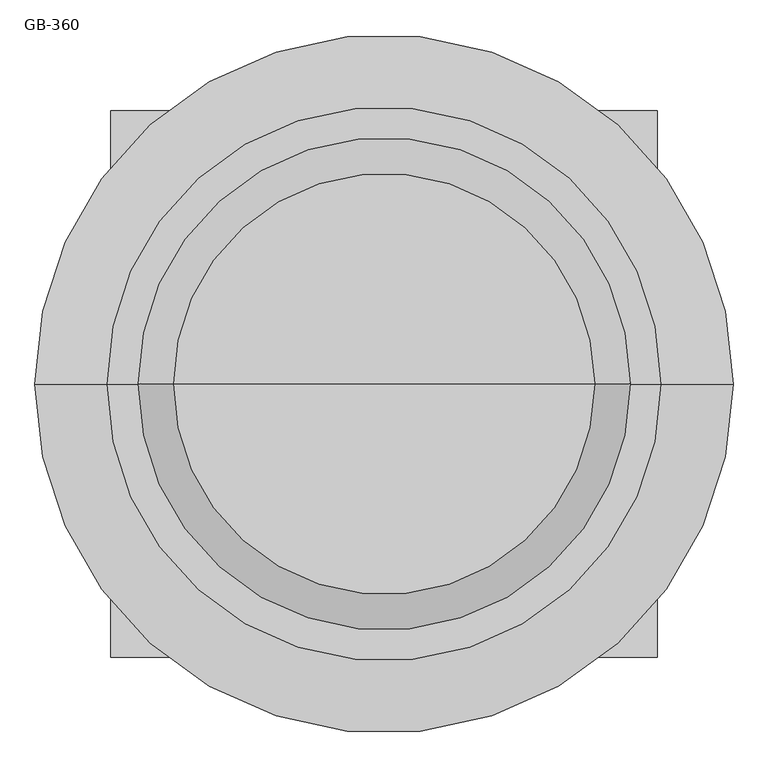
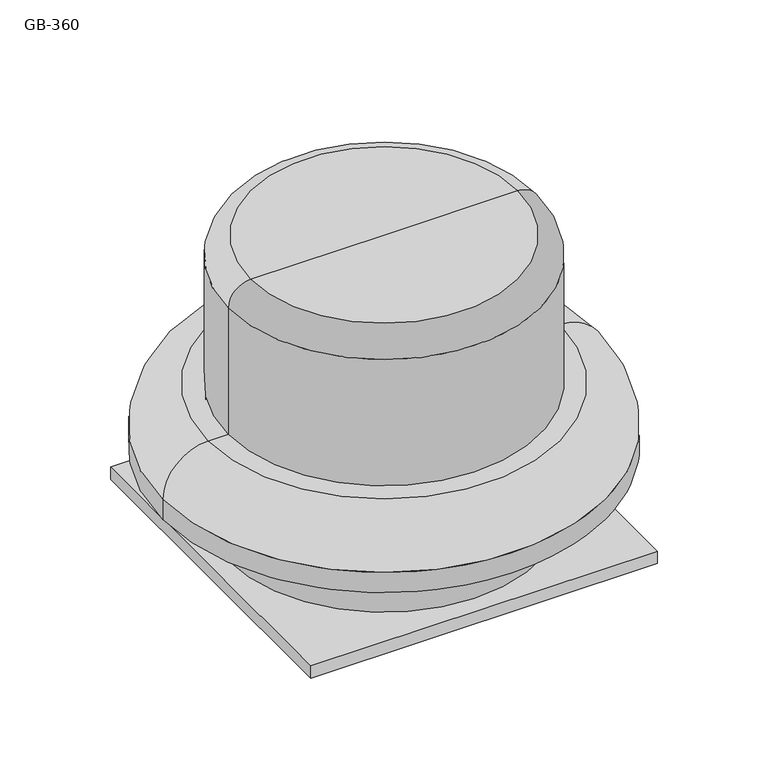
"""IFC4 building model written with IfcOpenShell, lengths in millimetres: proxy geometry, G_GB_RooftopVentilator_v04 : GB-360."""

from ifc_helpers import new_model, si_unit, point, frame, origin, place, context, project, spatial, circle_curve, ellipse_curve, trimmed, faceted_brep, source, transform, mapped, element, save
from ifc_brep_helpers import plane_surface, cylinder_surface, revolved_surface, advanced_brep


def gb_360_b470086c(model_context):
    return source(origin(), model_context, "Body", "SolidModel", [
        faceted_brep([(304.7375884, -584.2, 3.175), (-863.6624116, -584.2, 3.175), (-863.6624116, -584.2, -41.275), (304.7375884, -584.2, -41.275), (304.7375884, 584.2, 3.175), (304.7375884, 584.2, -41.275), (-863.6624116, 584.2, -41.275), (-863.6624116, 584.2, 3.175), (303.1500884, -582.6125, -41.275), (303.1500884, 582.6125, -41.275), (-862.0749116, 582.6125, -41.275), (-862.0749116, -582.6125, -41.275), (303.1500884, 582.6125, 1.5875), (303.1500884, -582.6125, 1.5875), (-862.0749116, -582.6125, 1.5875), (-862.0749116, 582.6125, 1.5875)], [[[0, 1, 2, 3]], [[4, 5, 6, 7]], [[1, 0, 4, 7]], [[2, 1, 7, 6]], [[3, 2, 6, 5], [8, 9, 10, 11]], [[0, 3, 5, 4]], [[12, 13, 14, 15]], [[13, 12, 9, 8]], [[14, 13, 8, 11]], [[15, 14, 11, 10]], [[12, 15, 10, 9]]]),
        advanced_brep(
        [(-279.4624116, 0.0, 454.025), (312.4766509, 0.0, 454.025), (-871.4014741, 0.0, 454.025), (-1025.5874116, 0.0, 228.6), (466.6625884, 0.0, 228.6), (-279.4624116, 0.0, 228.6), (-1025.5874116, 0.0, 299.8392439), (466.6625884, 0.0, 299.8390625)],
        [
            (0, 1),
            (1, 2, circle_curve(frame((-279.4624116, 0.0, 454.025), z_axis=(0.0, 0.0, 1.0), x_axis=(1.0, 0.0, 0.0)), 591.9390625)),
            (2, 0),
            (2, 1, circle_curve(frame((-279.4624116, 0.0, 454.025), z_axis=(0.0, 0.0, 1.0), x_axis=(1.0, 0.0, 0.0)), 591.9390625)),
            (3, 4, circle_curve(frame((-279.4624116, 0.0, 228.6), z_axis=(0.0, 0.0, -1.0), x_axis=(1.0, 0.0, 0.0)), 746.125)),
            (4, 5),
            (5, 3),
            (4, 3, circle_curve(frame((-279.4624116, 0.0, 228.6), z_axis=(0.0, 0.0, -1.0), x_axis=(1.0, 0.0, 0.0)), 746.125)),
            (3, 6),
            (6, 7, circle_curve(frame((-279.4624116, 0.0, 299.8390625), z_axis=(0.0, 0.0, -1.0), x_axis=(1.0, 0.0, 0.0)), 746.125)),
            (7, 4),
            (7, 6, circle_curve(frame((-279.4624116, 0.0, 299.8390625), z_axis=(0.0, 0.0, -1.0), x_axis=(1.0, 0.0, 0.0)), 746.125)),
            (6, 2, circle_curve(frame((-871.4014741, 0.0, 299.8390625), z_axis=(0.0, 1.0, 0.0), x_axis=(-1.0, 0.0, 0.0)), 154.1859375)),
            (1, 7, circle_curve(frame((312.4766509, 0.0, 299.8390625), z_axis=(0.0, 1.0, 0.0), x_axis=(1.0, 0.0, 0.0)), 154.1859375)),
        ],
        [
            plane_surface(frame((-279.4624116, 0.0, 454.025), z_axis=(0.0, 0.0, 1.0), x_axis=(1.0, 0.0, 0.0))),
            plane_surface(frame((-279.4624116, 0.0, 228.6), z_axis=(0.0, 0.0, -1.0), x_axis=(1.0, 0.0, 0.0))),
            cylinder_surface(frame((-279.4624116, 0.0, 228.5672007), z_axis=(0.0, 0.0, 1.0), x_axis=(1.0, 0.0, 0.0)), 746.125),
            revolved_surface(trimmed(ellipse_curve(frame((312.4766509, 0.0, 299.8390625), z_axis=(0.0, -1.0, 0.0), x_axis=(1.0, 0.0, 0.0)), 154.1859375, 154.1859375), [point((466.6625884, 0.0, 299.8390625))], [point((312.4766509, 0.0, 454.025))], True, "CARTESIAN"), (-279.4624116, 0.0, 433.7138531), (0.0, 0.0, 1.0)),
        ],
        [
            (0, [[1, 2, 3]]),
            (0, [[-1, -3, 4]]),
            (1, [[5, 6, 7]]),
            (1, [[-6, 8, -7]]),
            (2, [[-5, 9, 10, 11]]),
            (2, [[-8, -11, 12, -9]]),
            (3, [[13, -2, 14, -10]]),
            (3, [[-13, -12, -14, -4]]),
        ],
    ),
        advanced_brep(
        [(-804.9249116, 0.0, 904.875), (246.7938384, 0.0, 904.875), (246.7938384, 0.0, 3.175), (-804.9249116, 0.0, 3.175), (-279.0655366, 0.0, 981.075), (170.5938384, 0.0, 981.075), (-728.7249116, 0.0, 981.075), (-279.0655366, 0.0, 3.175)],
        [
            (0, 1, circle_curve(frame((-279.0655366, 0.0, 904.875), z_axis=(0.0, 0.0, -1.0), x_axis=(1.0, 0.0, 0.0)), 525.859375)),
            (1, 2),
            (2, 3, circle_curve(frame((-279.0655366, 0.0, 3.175), z_axis=(0.0, 0.0, 1.0), x_axis=(1.0, 0.0, 0.0)), 525.859375)),
            (3, 0),
            (1, 0, circle_curve(frame((-279.0655366, 0.0, 904.875), z_axis=(0.0, 0.0, -1.0), x_axis=(1.0, 0.0, 0.0)), 525.859375)),
            (3, 2, circle_curve(frame((-279.0655366, 0.0, 3.175), z_axis=(0.0, 0.0, 1.0), x_axis=(1.0, 0.0, 0.0)), 525.859375)),
            (4, 5),
            (5, 6, circle_curve(frame((-279.0655366, 0.0, 981.075), z_axis=(0.0, 0.0, 1.0), x_axis=(1.0, 0.0, 0.0)), 449.659375)),
            (6, 4),
            (6, 5, circle_curve(frame((-279.0655366, 0.0, 981.075), z_axis=(0.0, 0.0, 1.0), x_axis=(1.0, 0.0, 0.0)), 449.659375)),
            (2, 7),
            (7, 3),
            (5, 1, circle_curve(frame((170.5938384, 0.0, 904.875), z_axis=(0.0, 1.0, 0.0), x_axis=(1.0, 0.0, 0.0)), 76.2)),
            (0, 6, circle_curve(frame((-728.7249116, 0.0, 904.875), z_axis=(0.0, 1.0, 0.0), x_axis=(-1.0, 0.0, 0.0)), 76.2)),
        ],
        [
            cylinder_surface(frame((-279.0655366, 0.0, 51.4638052), z_axis=(0.0, 0.0, 1.0), x_axis=(1.0, 0.0, 0.0)), 525.859375),
            plane_surface(frame((-279.0655366, 0.0, 981.075), z_axis=(0.0, 0.0, 1.0), x_axis=(1.0, 0.0, 0.0))),
            plane_surface(frame((-279.0655366, 0.0, 3.175), z_axis=(0.0, 0.0, -1.0), x_axis=(1.0, 0.0, 0.0))),
            revolved_surface(trimmed(ellipse_curve(frame((170.5938384, 0.0, 904.875), z_axis=(0.0, -1.0, 0.0), x_axis=(1.0, 0.0, 0.0)), 76.2, 76.2), [point((246.7938384, 0.0, 904.875))], [point((170.5938384, 0.0, 981.075))], True, "CARTESIAN"), (-279.0655366, 0.0, 51.4638052), (0.0, 0.0, 1.0)),
        ],
        [
            (0, [[1, 2, 3, 4]]),
            (0, [[5, -4, 6, -2]]),
            (1, [[7, 8, 9]]),
            (1, [[-9, 10, -7]]),
            (2, [[-3, 11, 12]]),
            (2, [[-6, -12, -11]]),
            (3, [[-8, 13, -1, 14]]),
            (3, [[-10, -14, -5, -13]]),
        ],
    ),
    ])


if __name__ == "__main__":
    model = new_model("IFC4")
    model_context = context("Model", 3, world=origin())
    ifc_project = project(units=[si_unit("LENGTHUNIT", "METRE", prefix="MILLI")], contexts=[model_context])
    site = spatial("IfcSite", under=ifc_project)
    building = spatial("IfcBuilding", under=site)
    placement = place(None, origin())
    gb_360_shape = gb_360_b470086c(model_context)
    element("IfcBuildingElementProxy", 1, Name="G_GB_RooftopVentilator_v04 : GB-360", ObjectType="G_GB_RooftopVentilator_v04 : GB-360", at=placement, inside=building, context=model_context, shape_type="MappedRepresentation", body=[
        mapped(gb_360_shape, transform((0.0, 0.0, 0.0), x_axis=(1.0, 0.0, 0.0), y_axis=(0.0, 1.0, 0.0), z_axis=(0.0, 0.0, 1.0))),
    ])
    save(model, "model.ifc")
